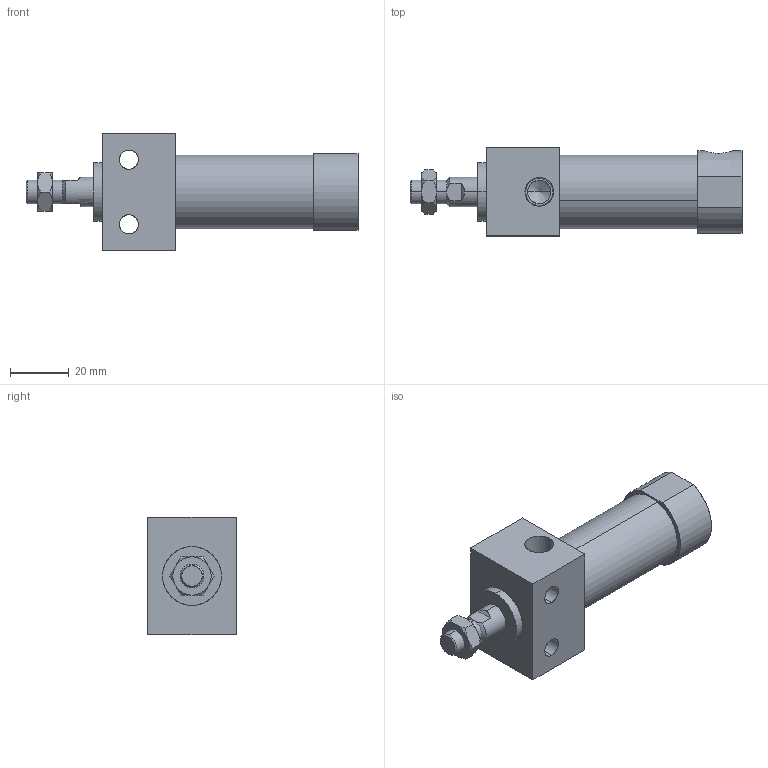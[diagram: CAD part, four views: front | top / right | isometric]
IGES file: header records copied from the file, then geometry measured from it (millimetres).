
Start section: SolidWorks IGES file using analytic representation for surfaces
Global section: file name: C:\Users\Toshiba\Desktop\JGES2-20-15.IGS; native system: SolidWorks 2014; preprocessor: SolidWorks 2014; author: Toshiba; date: 160420.150606; units: millimetre
Bounding box: 113 x 30 x 40 mm (x, y, z)
Surface area: 16719.9 mm2 (no closed solid volume)
Topology: 0 solids, 0 shells, 85 faces, 1478 edges, 1472 vertices
Faces by surface type: bspline 43, revolution 42
